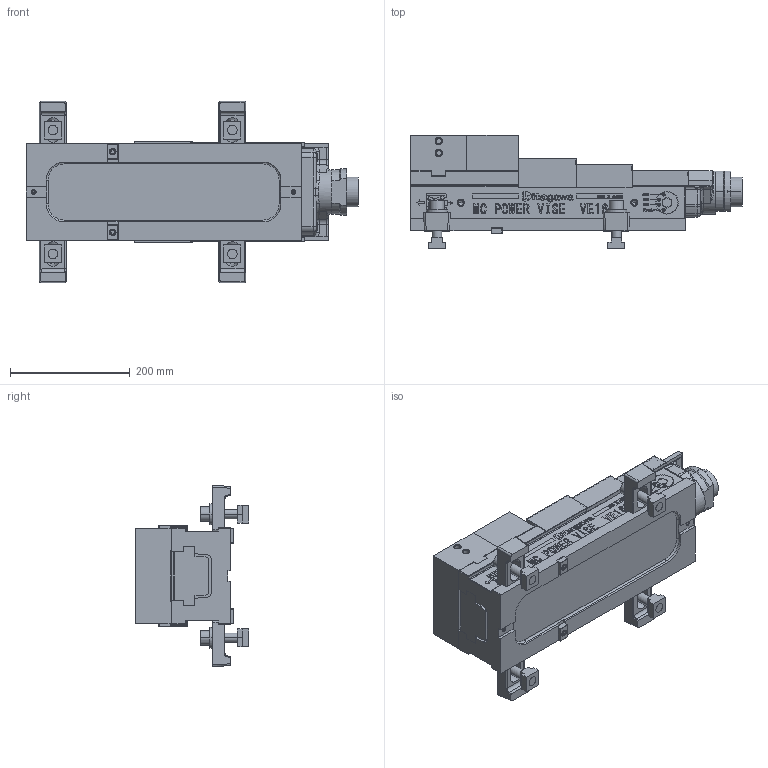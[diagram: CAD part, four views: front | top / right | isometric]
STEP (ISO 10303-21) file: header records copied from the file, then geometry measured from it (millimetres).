
FILE_DESCRIPTION (( 'STEP AP214' ), '1' );
FILE_NAME ('VE160N_C.STEP', '2023-08-04T06:32:21', ( '' ), ( '' ), 'SwSTEP 2.0', 'SolidWorks 2020', '' );
FILE_SCHEMA (( 'AUTOMOTIVE_DESIGN' ));
Length unit declared in the file: millimetre
Products named in the file (20): 僒僀僪僔乕儖R(61M2680360); Bアナツキ M16×65; 僕儑乕F(61M3963590)VE160N; リボルバ部; 僗儔僀僪僇僶乕Z(61M3523324)VE160; クランプクミタテ(61M420565); 僗儔僀僪僇僶乕X(61M3523302)VE160; T僗儘僢僩僫僢僩俿俶俵侾俉侾俇; クランプ(61M3159626)VP160; スプリングケース(61M2367022)VE160; エンドカバー(61M4625110)VE160N; ボデー(61M2367014)VE160; 僕儑乕M(61俵3963600)VE160N; 僗儔僀僪僇僶乕Y(61M3523315)VE160; 僒僀僪僔乕儖L(61M2680370); VE160Nホンタイ; 儚僢僔儍丂16乮61M4266330乯; ガイドブロック(61M4197783); VE160N_C; カバーリング(61M4399252)VE160N
Assembly tree (23 placements, depth 3):
  VE160N_C
    VE160Nホンタイ
      ボデー(61M2367014)VE160
      ガイドブロック(61M4197783)  x2
      僕儑乕F(61M3963590)VE160N
      スプリングケース(61M2367022)VE160
      カバーリング(61M4399252)VE160N
      リボルバ部
      エンドカバー(61M4625110)VE160N
      僕儑乕M(61俵3963600)VE160N
      僗儔僀僪僇僶乕X(61M3523302)VE160
      僗儔僀僪僇僶乕Y(61M3523315)VE160
      僗儔僀僪僇僶乕Z(61M3523324)VE160
      僒僀僪僔乕儖L(61M2680370)
      僒僀僪僔乕儖R(61M2680360)
    クランプクミタテ(61M420565)  x4
      クランプ(61M3159626)VP160
      儚僢僔儍丂16乮61M4266330乯
      Bアナツキ M16×65
      T僗儘僢僩僫僢僩俿俶俵侾俉侾俇
Bounding box: 555 x 190 x 303 mm (x, y, z)
Volume: 9516166.1 mm3; surface area: 868666.8 mm2
Topology: 30 solids, 30 shells, 1238 faces, 4602 edges, 3711 vertices
Faces by surface type: plane 861, cylinder 263, cone 79, torus 21, bspline 14
Entity records: 57516 total; most frequent: CARTESIAN_POINT 19430, ORIENTED_EDGE 8138, DIRECTION 5885, EDGE_CURVE 4069, VERTEX_POINT 3381, LINE 2615, VECTOR 2615, AXIS2_PLACEMENT_3D 1635
